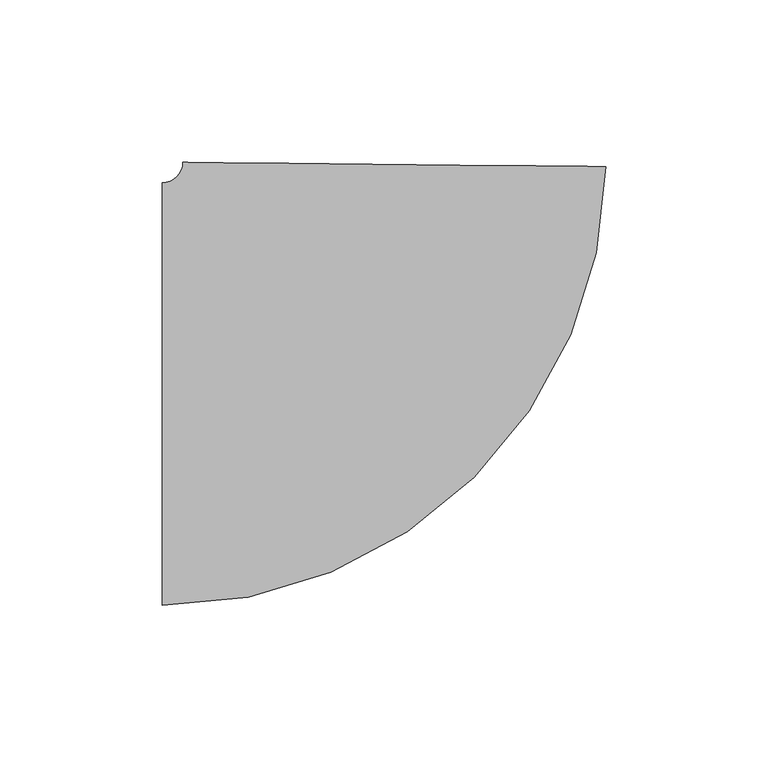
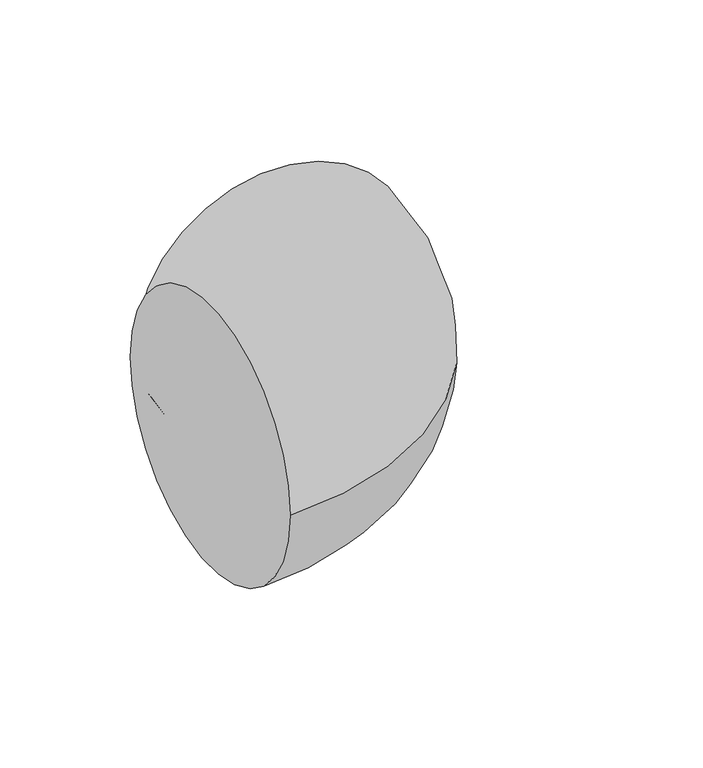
"""IFC4 building model written with IfcOpenShell, lengths in millimetres: pipe fitting geometry, M_Codo - Genérico : Estándar."""

from ifc_helpers import new_model, si_unit, point, frame, origin, place, context, project, spatial, circle_curve, ellipse_curve, trimmed, source, transform, mapped, element, save
from ifc_brep_helpers import plane_surface, revolved_surface, advanced_brep


def pipe_fitting_d40dc35a(model_context):
    return source(origin(), model_context, "Body", "AdvancedBrep", [
        advanced_brep(
        [(-70.7204561, -65.0875, 0.0), (-70.7204561, 65.0875, 0.0), (65.7975972, 70.0602724, 0.0), (-64.3707792, 71.3734429, 0.0)],
        [
            (0, 1, circle_curve(frame((-70.7204561, 0.0, 0.0), z_axis=(-1.0, 0.0, 0.0), x_axis=(0.0, 1.0, 0.0)), 65.0875)),
            (1, 0, circle_curve(frame((-70.7204561, 0.0, 0.0), z_axis=(-1.0, 0.0, 0.0), x_axis=(0.0, 1.0, 0.0)), 65.0875)),
            (2, 3, circle_curve(frame((0.713409, 70.7168576, 0.0), z_axis=(0.010087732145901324, 0.9999491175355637, 0.0), x_axis=(-0.9999491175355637, 0.010087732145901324, 0.0)), 65.0875)),
            (3, 2, circle_curve(frame((0.713409, 70.7168576, 0.0), z_axis=(0.010087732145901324, 0.9999491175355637, 0.0), x_axis=(-0.9999491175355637, 0.010087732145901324, 0.0)), 65.0875)),
            (3, 1, circle_curve(frame((-70.7204561, 71.4375, 0.0), z_axis=(0.0, 0.0, -1.0), x_axis=(0.0, -1.0, 0.0)), 6.35)),
            (0, 2, circle_curve(frame((-70.7204561, 71.4375, 0.0), z_axis=(0.0, 0.0, 1.0), x_axis=(0.0, -1.0, 0.0)), 136.525)),
        ],
        [
            plane_surface(frame((-70.7204561, 0.0, 0.0), z_axis=(-1.0, 0.0, 0.0), x_axis=(0.0, 0.0, 1.0))),
            plane_surface(frame((0.713409, 70.7168576, 0.0), z_axis=(0.010087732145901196, 0.9999491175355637, 0.0), x_axis=(0.0, 0.0, 1.0))),
            revolved_surface(trimmed(ellipse_curve(frame((-70.7204561, 0.0, 0.0), z_axis=(-1.0, 0.0, 0.0), x_axis=(0.0, 1.0, 0.0)), 65.0875, 65.0875), [point((-70.7204561, -65.0875, 0.0))], [point((-70.7204561, 65.0875, 0.0))], True, "CARTESIAN"), (-70.7204561, 71.4375, 0.0), (0.0, 0.0, 1.0)),
            revolved_surface(trimmed(ellipse_curve(frame((-70.7204561, 0.0, 0.0), z_axis=(-1.0, 0.0, 0.0), x_axis=(0.0, 1.0, 0.0)), 65.0875, 65.0875), [point((-70.7204561, 65.0875, 0.0))], [point((-70.7204561, -65.0875, 0.0))], True, "CARTESIAN"), (-70.7204561, 71.4375, 0.0), (0.0, 0.0, 1.0)),
        ],
        [
            (0, [[1, 2]]),
            (1, [[3, 4]]),
            (2, [[5, -1, 6, -4]]),
            (3, [[-6, -2, -5, -3]]),
        ],
    ),
    ])


if __name__ == "__main__":
    model = new_model("IFC4")
    model_context = context("Model", 3, world=origin())
    ifc_project = project(units=[si_unit("LENGTHUNIT", "METRE", prefix="MILLI")], contexts=[model_context])
    site = spatial("IfcSite", under=ifc_project)
    building = spatial("IfcBuilding", under=site)
    placement = place(None, origin())
    pipe_fitting_shape = pipe_fitting_d40dc35a(model_context)
    element("IfcPipeFitting", 1, ObjectType="M_Codo - Genérico : Estándar", at=placement, inside=building, context=model_context, shape_type="MappedRepresentation", body=[
        mapped(pipe_fitting_shape, transform((0.0, 0.0, 0.0), x_axis=(1.0, 0.0, 0.0), y_axis=(0.0, 1.0, 0.0), z_axis=(0.0, 0.0, 1.0))),
    ])
    save(model, "model.ifc")
